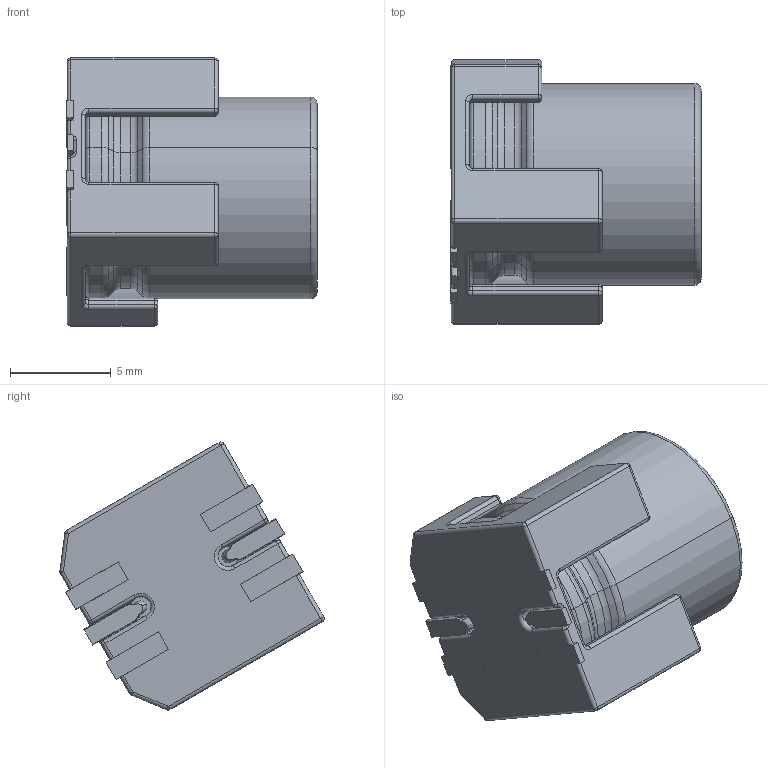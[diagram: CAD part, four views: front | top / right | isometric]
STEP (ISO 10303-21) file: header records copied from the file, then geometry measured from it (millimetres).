
FILE_DESCRIPTION((''),'2;1');
FILE_NAME('HYBRIDSMD10X124_ASM','2020-06-03T',('xy'),(''),'PRO/ENGINEER BY PARAMETRIC TECHNOLOGY CORPORATION, 2009380','PRO/ENGINEER BY PARAMETRIC TECHNOLOGY CORPORATION, 2009380','');
FILE_SCHEMA(('CONFIG_CONTROL_DESIGN'));
Length unit declared in the file: millimetre
Products named in the file (3): HYBRIDSMD10X124; ZB10A; HYBRIDSMD10X124_ASM
Assembly tree (2 placements, depth 2):
  HYBRIDSMD10X124_ASM
    HYBRIDSMD10X124
    ZB10A
Bounding box: 12.41 x 13.12 x 13.3 mm (x, y, z)
Volume: 1069.8 mm3; surface area: 988.1 mm2
Topology: 2 solids, 2 shells, 654 faces, 1705 edges, 1074 vertices
Faces by surface type: plane 442, cylinder 98, torus 55, sphere 32, bspline 23, cone 4
Entity records: 21022 total; most frequent: CARTESIAN_POINT 4918, ORIENTED_EDGE 3402, DIRECTION 3222, EDGE_CURVE 1701, VECTOR 1332, LINE 1332, VERTEX_POINT 1074, AXIS2_PLACEMENT_3D 945
